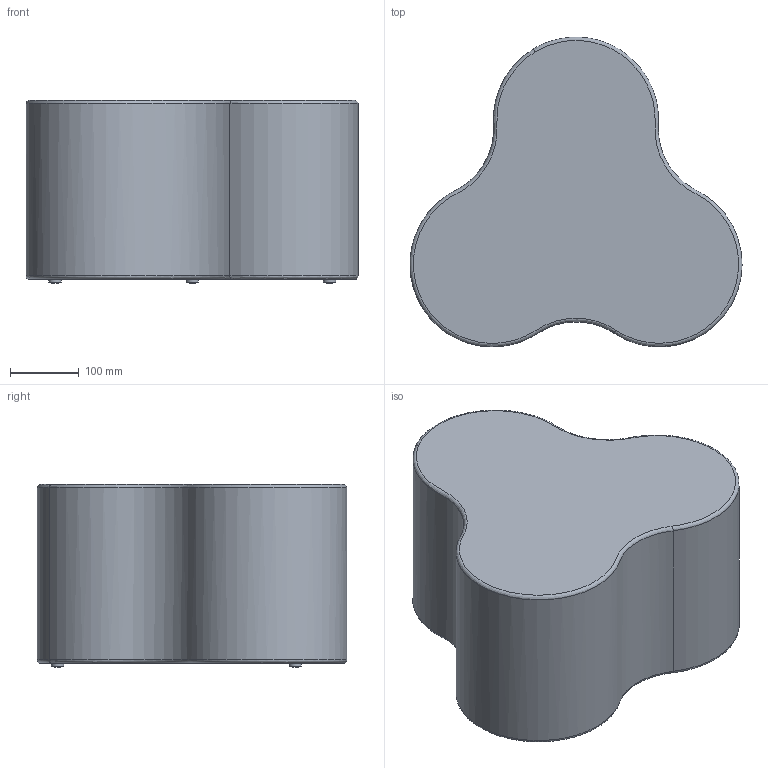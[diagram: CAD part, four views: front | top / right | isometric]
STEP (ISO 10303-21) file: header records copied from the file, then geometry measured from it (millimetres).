
FILE_DESCRIPTION(/* description */ (''),/* implementation_level */ '2;1');
FILE_NAME(/* name */ 'kinoshita_baobabland_k024',/* time_stamp */ '2026-04-02T14:09:35+09:00',/* author */ (''),/* organization */ (''),/* preprocessor_version */ 'ST-DEVELOPER v16.5',/* originating_system */ '',/* authorisation */ '');
FILE_SCHEMA (('AUTOMOTIVE_DESIGN'));
Length unit declared in the file: millimetre
Products named in the file (1): Document
Bounding box: 482.46 x 449.9 x 266 mm (x, y, z)
Volume: 38941344.8 mm3; surface area: 682630.7 mm2
Topology: 4 solids, 4 shells, 17 faces, 32 edges, 20 vertices
Faces by surface type: bspline 12, plane 5
Entity records: 1417 total; most frequent: CARTESIAN_POINT 1200, ORIENTED_EDGE 58, EDGE_CURVE 29, VERTEX_POINT 20, ADVANCED_FACE 17, FACE_OUTER_BOUND 17, EDGE_LOOP 17, B_SPLINE_CURVE_WITH_KNOTS 10
